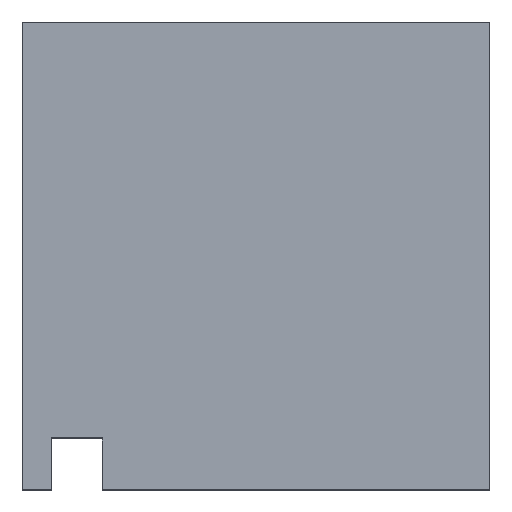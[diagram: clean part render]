
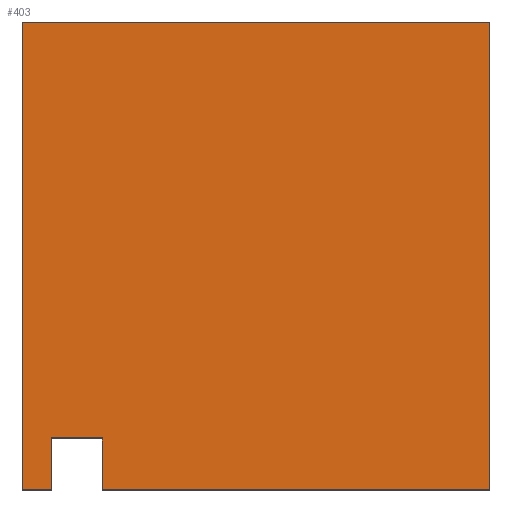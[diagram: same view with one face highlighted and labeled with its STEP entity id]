
A CAD part, top view. The second image highlights one B-rep face of the part: STEP entity #403.
In plain terms, the highlighted planar face has unit normal (0, 0, 1).
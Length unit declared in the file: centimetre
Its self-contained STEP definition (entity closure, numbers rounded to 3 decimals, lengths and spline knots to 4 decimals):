
#10 = DIRECTION ( 'NONE',  ( 1., 0., 0. ) ) ;
#60 = DIRECTION ( 'NONE',  ( 0., 0., 1. ) ) ;
#129 = ORIENTED_EDGE ( 'NONE', *, *, #1234, .F. ) ;
#136 = CARTESIAN_POINT ( 'NONE',  ( 62.3617, 110.8938, 1000. ) ) ;
#139 = VERTEX_POINT ( 'NONE', #605 ) ;
#154 = DIRECTION ( 'NONE',  ( 0., -1., 0. ) ) ;
#155 = PLANE ( 'NONE',  #1062 ) ;
#176 = LINE ( 'NONE', #290, #1050 ) ;
#183 = CARTESIAN_POINT ( 'NONE',  ( 171.458, 110.8938, 1000. ) ) ;
#190 = ORIENTED_EDGE ( 'NONE', *, *, #1170, .F. ) ;
#249 = CARTESIAN_POINT ( 'NONE',  ( 171.458, 0., 1000. ) ) ;
#263 = DIRECTION ( 'NONE',  ( 0., 1., 0. ) ) ;
#267 = EDGE_CURVE ( 'NONE', #517, #1129, #664, .T. ) ;
#290 = CARTESIAN_POINT ( 'NONE',  ( 0., 1000., 1000. ) ) ;
#296 = DIRECTION ( 'NONE',  ( 0., 1., 0. ) ) ;
#322 = LINE ( 'NONE', #1173, #857 ) ;
#370 = EDGE_CURVE ( 'NONE', #1129, #620, #553, .T. ) ;
#403 = ADVANCED_FACE ( 'NONE', ( #1035 ), #155, .T. ) ;
#412 = CARTESIAN_POINT ( 'NONE',  ( 0., 0., 1000. ) ) ;
#432 = VECTOR ( 'NONE', #263, 100. ) ;
#441 = VERTEX_POINT ( 'NONE', #534 ) ;
#486 = EDGE_CURVE ( 'NONE', #849, #1231, #1018, .T. ) ;
#505 = DIRECTION ( 'NONE',  ( -1., 0., 0. ) ) ;
#517 = VERTEX_POINT ( 'NONE', #799 ) ;
#534 = CARTESIAN_POINT ( 'NONE',  ( 171.458, 0., 1000. ) ) ;
#553 = LINE ( 'NONE', #412, #919 ) ;
#558 = CARTESIAN_POINT ( 'NONE',  ( 1000., 1000., 1000. ) ) ;
#575 = VECTOR ( 'NONE', #505, 100. ) ;
#605 = CARTESIAN_POINT ( 'NONE',  ( 1000., 0., 1000. ) ) ;
#612 = EDGE_CURVE ( 'NONE', #441, #139, #1176, .T. ) ;
#620 = VERTEX_POINT ( 'NONE', #696 ) ;
#653 = DIRECTION ( 'NONE',  ( 0., -1., 0. ) ) ;
#664 = LINE ( 'NONE', #862, #869 ) ;
#687 = DIRECTION ( 'NONE',  ( -1., 0., 0. ) ) ;
#696 = CARTESIAN_POINT ( 'NONE',  ( 62.3617, 0., 1000. ) ) ;
#709 = ORIENTED_EDGE ( 'NONE', *, *, #267, .T. ) ;
#757 = CARTESIAN_POINT ( 'NONE',  ( 62.3617, 110.8938, 1000. ) ) ;
#799 = CARTESIAN_POINT ( 'NONE',  ( 0., 1000., 1000. ) ) ;
#804 = DIRECTION ( 'NONE',  ( 1., 0., 0. ) ) ;
#849 = VERTEX_POINT ( 'NONE', #183 ) ;
#853 = DIRECTION ( 'NONE',  ( 1., 0., 0. ) ) ;
#857 = VECTOR ( 'NONE', #296, 100. ) ;
#862 = CARTESIAN_POINT ( 'NONE',  ( 0., 1000., 1000. ) ) ;
#869 = VECTOR ( 'NONE', #653, 100. ) ;
#895 = CARTESIAN_POINT ( 'NONE',  ( 0., 0., 1000. ) ) ;
#910 = EDGE_CURVE ( 'NONE', #1210, #517, #176, .T. ) ;
#919 = VECTOR ( 'NONE', #804, 100. ) ;
#939 = CARTESIAN_POINT ( 'NONE',  ( 0., 0., 1000. ) ) ;
#943 = CARTESIAN_POINT ( 'NONE',  ( 0., 0., 1000. ) ) ;
#948 = CARTESIAN_POINT ( 'NONE',  ( 62.3617, 0., 1000. ) ) ;
#957 = ORIENTED_EDGE ( 'NONE', *, *, #612, .T. ) ;
#1018 = LINE ( 'NONE', #136, #575 ) ;
#1024 = ORIENTED_EDGE ( 'NONE', *, *, #486, .F. ) ;
#1034 = LINE ( 'NONE', #948, #1267 ) ;
#1035 = FACE_OUTER_BOUND ( 'NONE', #1060, .T. ) ;
#1050 = VECTOR ( 'NONE', #687, 100. ) ;
#1060 = EDGE_LOOP ( 'NONE', ( #129, #1024, #190, #957, #1086, #1061, #709, #1186 ) ) ;
#1061 = ORIENTED_EDGE ( 'NONE', *, *, #910, .T. ) ;
#1062 = AXIS2_PLACEMENT_3D ( 'NONE', #943, #60, #853 ) ;
#1080 = EDGE_CURVE ( 'NONE', #139, #1210, #322, .T. ) ;
#1086 = ORIENTED_EDGE ( 'NONE', *, *, #1080, .T. ) ;
#1129 = VERTEX_POINT ( 'NONE', #939 ) ;
#1170 = EDGE_CURVE ( 'NONE', #441, #849, #1242, .T. ) ;
#1173 = CARTESIAN_POINT ( 'NONE',  ( 1000., 1000., 1000. ) ) ;
#1176 = LINE ( 'NONE', #895, #1232 ) ;
#1186 = ORIENTED_EDGE ( 'NONE', *, *, #370, .T. ) ;
#1210 = VERTEX_POINT ( 'NONE', #558 ) ;
#1231 = VERTEX_POINT ( 'NONE', #757 ) ;
#1232 = VECTOR ( 'NONE', #10, 100. ) ;
#1234 = EDGE_CURVE ( 'NONE', #1231, #620, #1034, .T. ) ;
#1242 = LINE ( 'NONE', #249, #432 ) ;
#1267 = VECTOR ( 'NONE', #154, 100. ) ;
